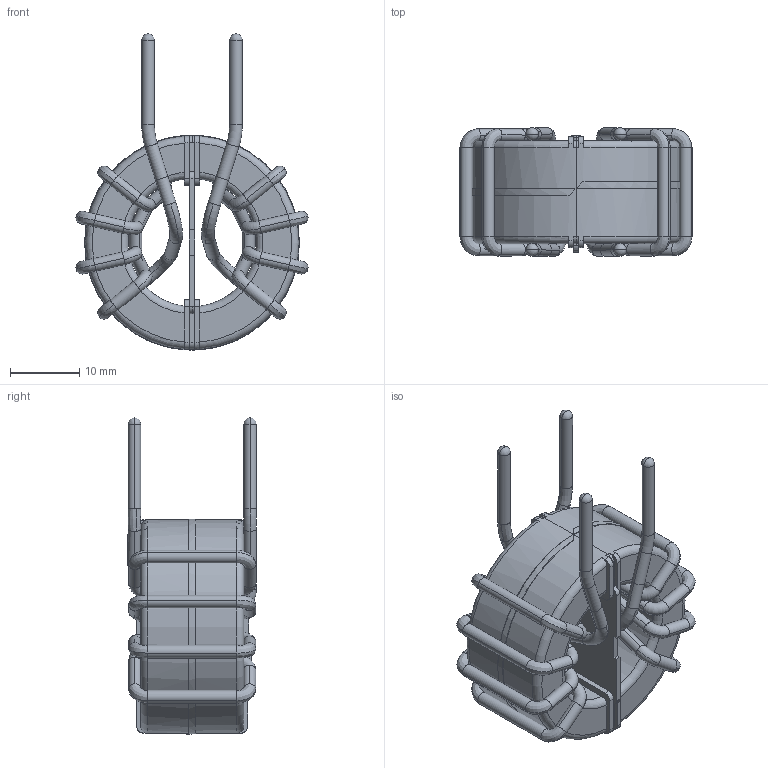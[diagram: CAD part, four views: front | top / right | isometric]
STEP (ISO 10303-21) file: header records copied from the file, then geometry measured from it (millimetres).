
FILE_DESCRIPTION (( 'STEP AP203' ), '1' );
FILE_NAME ('HL-V-151U-20A.STEP', '2020-07-31T13:45:36', ( 'Windows User' ), ( '' ), 'SwSTEP 2.0', 'SolidWorks 2015', '' );
FILE_SCHEMA (( 'CONFIG_CONTROL_DESIGN' ));
Length unit declared in the file: inch
Products named in the file (4): HL-V-151U-20A; HL-V-151U-20A - COIL; HL-V-151U-20A - FRAME; HL-V-151U-20A - CORE
Assembly tree (3 placements, depth 2):
  HL-V-151U-20A
    HL-V-151U-20A - CORE
    HL-V-151U-20A - COIL
    HL-V-151U-20A - FRAME
Bounding box: 33.5 x 18.6 x 45.65 mm (x, y, z)
Volume: 8711.1 mm3; surface area: 7054.6 mm2
Topology: 10 solids, 10 shells, 315 faces, 809 edges, 512 vertices
Faces by surface type: cylinder 110, torus 83, plane 70, bspline 52
Entity records: 13274 total; most frequent: CARTESIAN_POINT 5342, DIRECTION 1646, ORIENTED_EDGE 1618, EDGE_CURVE 809, AXIS2_PLACEMENT_3D 708, VERTEX_POINT 512, CIRCLE 439, FACE_OUTER_BOUND 315
